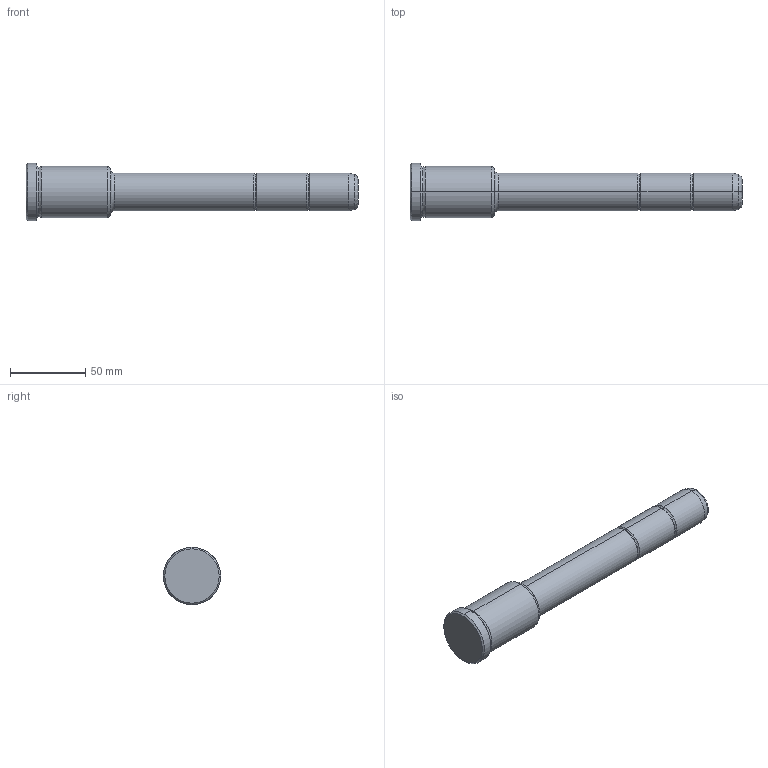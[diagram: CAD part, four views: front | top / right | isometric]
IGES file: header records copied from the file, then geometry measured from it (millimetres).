
Start section: START RECORD GO HERE.
Global section: file name: 351-25X56X220.igs; native system: DASSAULT SYSTEMES CATIA V5 R20 - www.3ds.com; preprocessor: CATIA Version 5 Release 20 ; author: Utente; organization: NB04-ASUS; date: 20210907.121419; units: millimetre
Bounding box: 220 x 38 x 38 mm (x, y, z)
Surface area: 20908.3 mm2 (no closed solid volume)
Topology: 0 solids, 0 shells, 36 faces, 204 edges, 204 vertices
Faces by surface type: revolution 32, plane 4
